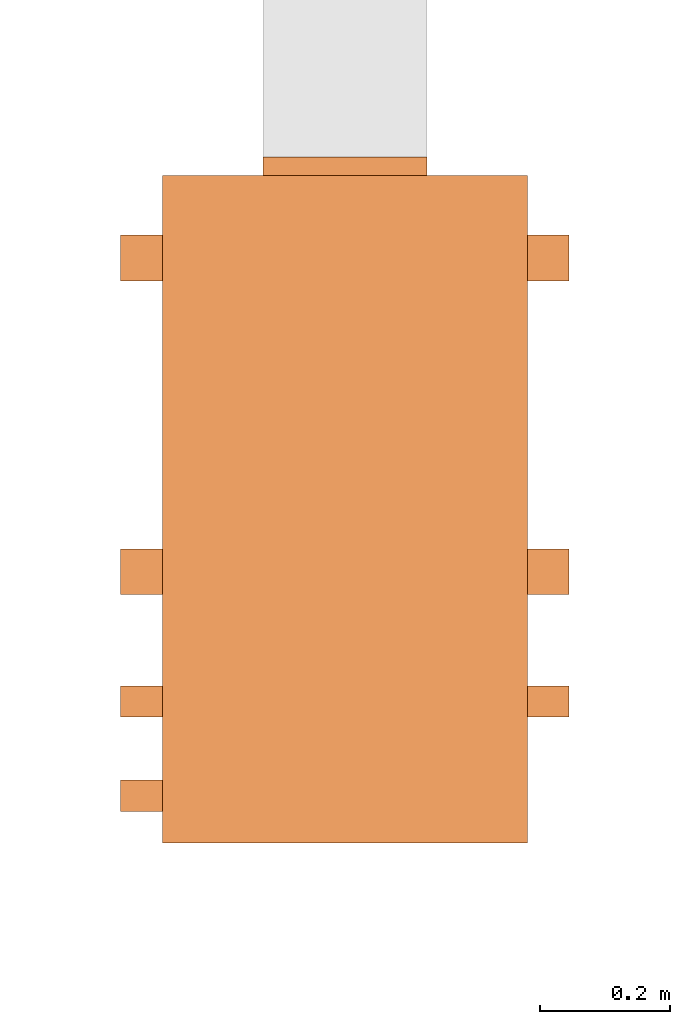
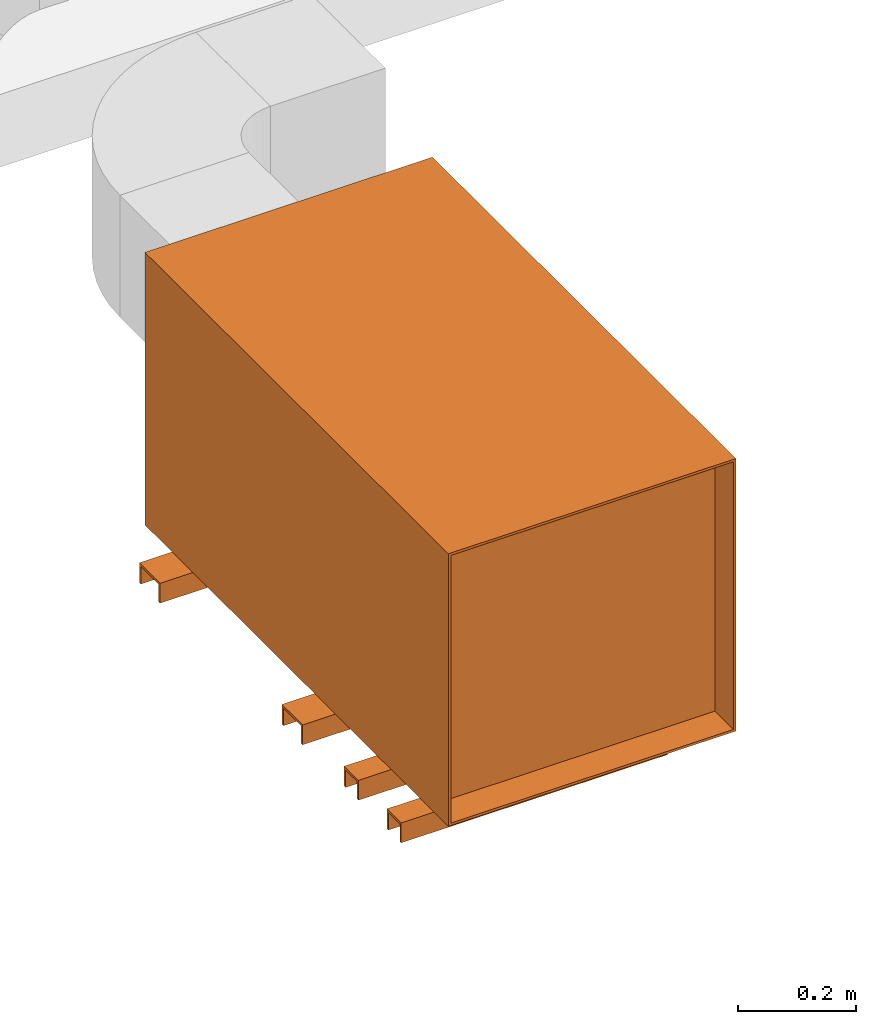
# One storey, part 8 of 10: 1 proxy.
"""IFC2X3 building model written with IfcOpenShell, lengths in millimetres."""

from ifc_helpers import new_model, entity, si_unit, converted_unit, derived_unit, direction, frame, frame_2d, origin, origin_2d_with_axis, place, context, subcontext, project, spatial, polyline, rectangle, hollow_circle, outline, extrude, source, transform, mapped, material, material_list, type_object, type_shapes, element, save


model = new_model("IFC2X3")

# Units and contexts
model_context = context("Model", 3, precision=0.01, world=origin(), true_north=direction((6.123233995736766e-17, 1.0)))
body_context = subcontext(model_context, "Body", "Model", "MODEL_VIEW")
ifc_project = project(units=[si_unit("LENGTHUNIT", "METRE", prefix="MILLI"), converted_unit("PLANEANGLEUNIT", "DEGREE", entity("IfcPlaneAngleMeasure", 0.017453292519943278), si_unit("PLANEANGLEUNIT", "RADIAN"), dimensions=[0, 0, 0, 0, 0, 0, 0]), si_unit("AREAUNIT", "SQUARE_METRE"), derived_unit("THERMALTRANSMITTANCEUNIT", [(si_unit("MASSUNIT", "GRAM", prefix="KILO"), 1), (si_unit("THERMODYNAMICTEMPERATUREUNIT", "KELVIN"), -1), (si_unit("TIMEUNIT", "SECOND"), -3)])], contexts=[model_context])

# Site, building, storey
site_placement = place(None, origin())
site = spatial("IfcSite", under=ifc_project, at=site_placement, Name="Default", CompositionType="ELEMENT")
building_placement = place(site_placement, origin())
building = spatial("IfcBuilding", under=site, at=building_placement, Name="Praça Pedro II, 1301 - Centro (Sul), Teresina - PI, 64001-100", CompositionType="ELEMENT")
storey_placement = place(building_placement, frame((0.0, 0.0, 9040.0)))
storey = spatial("IfcBuildingStorey", under=building, at=storey_placement, Name="LAJE TÉCNICA", CompositionType="ELEMENT", Elevation=9040.0)

# Proxy
ifc_material_1 = material(Name="Steel, Galvanized")
ifc_material_2 = material(Name="Fabric")
ifc_material_list = material_list([ifc_material_1, ifc_material_2])
building_element_proxy_type = type_object("IfcBuildingElementProxyType", Name="GLPF-200_1000-H-B-G4_M5:GLPF 280", PredefinedType="NOTDEFINED", material=ifc_material_list)
shared_shape = source(origin(), body_context, "Body", "SweptSolid", [
    extrude(rectangle(XDim=561.9999999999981, YDim=737.0000000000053, at=origin_2d_with_axis()), frame((0.0, 0.0, 41.0), z_axis=(0.0, 0.0, 1.0), x_axis=(-1.0, 0.0, 0.0)), (0.0, 0.0, 1.0), 4.999999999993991),
    extrude(outline(polyline([(-368.5000000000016, -281.0), (368.5000000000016, -281.0), (368.5000000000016, 281.0), (-368.5000000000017, 281.0), (-368.5000000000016, -281.0)]), holes=[polyline([(363.5000000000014, -276.0), (-363.5000000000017, -276.0), (-363.50000000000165, 276.0), (363.5000000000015, 276.0), (363.5000000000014, -276.0)])]), frame((0.0, 0.0, 46.0), z_axis=(0.0, 0.0, 1.0), x_axis=(0.0, 1.0, 0.0)), (0.0, 0.0, 1.0), 553.0000000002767),
    extrude(rectangle(XDim=562.0000000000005, YDim=737.0000000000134, at=origin_2d_with_axis()), frame((0.0, 0.0, 599.0), z_axis=(0.0, 0.0, 1.0), x_axis=(-1.0, 0.0, 0.0)), (0.0, 0.0, 1.0), 5.000000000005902),
    extrude(hollow_circle(Radius=190.00000000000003, WallThickness=50.00000000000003, at=frame_2d((-5.805957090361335e-15, -3.0455638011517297e-13), x_axis=(1.0, 0.0))), frame((0.0, 368.4999999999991, 302.0), z_axis=(0.0, 1.0, 0.0), x_axis=(-1.0, 0.0, 0.0)), (0.0, 0.0, 1.0), 5.000000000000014),
    extrude(outline(polyline([(-19.25000000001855, -35.1250000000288), (21.74999999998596, -35.1250000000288), (21.74999999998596, 35.12499999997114), (-19.250000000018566, 35.12499999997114), (-19.250000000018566, 30.125000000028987), (16.750000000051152, 30.125000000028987), (16.750000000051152, -30.12499999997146), (-19.25000000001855, -30.12499999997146), (-19.25000000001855, -35.1250000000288)])), frame((-345.0, 241.2499999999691, 19.250000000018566), z_axis=(1.0, 0.0, 0.0), x_axis=(0.0, 0.0, 1.0)), (0.0, 0.0, 1.0), 689.9999999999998),
    extrude(outline(polyline([(-19.250000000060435, -35.125000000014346), (21.75000000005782, -35.125000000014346), (21.75000000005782, 35.12500000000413), (-19.250000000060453, 35.12500000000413), (-19.250000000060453, 30.125000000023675), (16.750000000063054, 30.125000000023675), (16.750000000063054, -30.12500000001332), (-19.250000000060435, -30.12500000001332), (-19.250000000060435, -35.125000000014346)])), frame((-345.0, -241.2499999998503, 19.250000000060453), z_axis=(1.0, 0.0, 0.0), x_axis=(0.0, 0.0, 1.0)), (0.0, 0.0, 1.0), 689.9999999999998),
    extrude(outline(polyline([(-125.94999999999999, -125.94999999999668), (125.94999999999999, -125.94999999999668), (125.94999999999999, 125.94999999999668), (-125.94999999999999, 125.94999999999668), (-125.94999999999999, -125.94999999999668)]), holes=[polyline([(-120.95000000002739, 120.95000000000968), (120.94999999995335, 120.95000000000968), (120.94999999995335, -120.94999999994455), (-120.95000000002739, -120.94999999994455), (-120.95000000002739, 120.95000000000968)])]), frame((0.0, -396.4999999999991, 328.0), z_axis=(0.0, 1.0, 0.0), x_axis=(0.0, 0.0, -1.0)), (0.0, 0.0, 1.0), 27.999999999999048),
    extrude(outline(polyline([(-19.2500000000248, -24.166666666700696), (21.75000000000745, -24.166666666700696), (21.75000000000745, 24.166666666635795), (-19.25000000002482, 24.166666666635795), (-19.25000000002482, 19.166666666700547), (16.75000000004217, 19.166666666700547), (16.75000000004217, -19.16666666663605), (-19.2500000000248, -19.16666666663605), (-19.2500000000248, -24.166666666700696)])), frame((-345.0, 441.0, 19.25000000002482), z_axis=(1.0, 0.0, 0.0), x_axis=(0.0, 0.0, 1.0)), (0.0, 0.0, 1.0), 689.9999999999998),
    extrude(outline(polyline([(-281.0, -281.4999999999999), (281.0, -281.4999999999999), (281.0, 281.4999999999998), (-281.0, 281.4999999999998), (-281.0, -281.4999999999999)]), holes=[polyline([(-276.0, -276.50000000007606), (-276.0, 276.49999999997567), (276.0, 276.4999999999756), (276.0, -276.5000000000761), (-276.0, -276.50000000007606)])]), frame((0.0, 368.4999999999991, 322.5000000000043), z_axis=(0.0, 1.0, 0.0), x_axis=(1.0, 0.0, 0.0)), (0.0, 0.0, 1.0), 145.00000000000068),
    extrude(rectangle(XDim=19.99999999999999, YDim=551.9999999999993, at=frame_2d((3.375077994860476e-14, 0.0), x_axis=(1.0, 0.0))), frame((0.0, 441.0, 46.0), z_axis=(0.0, 0.0, 1.0), x_axis=(0.0, -1.0, 0.0)), (0.0, 0.0, 1.0), 553.0000000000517),
    extrude(outline(polyline([(-281.0, -281.4999999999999), (281.0, -281.4999999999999), (281.0, 281.4999999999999), (-281.0, 281.4999999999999), (-281.0, -281.4999999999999)]), holes=[polyline([(-276.0, -276.500000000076), (-276.0, 276.4999999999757), (276.0, 276.4999999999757), (276.0, -276.500000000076), (-276.0, -276.500000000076)])]), frame((0.0, 513.4999999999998, 322.5000000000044), z_axis=(0.0, 1.0, 0.0), x_axis=(1.0, 0.0, 0.0)), (0.0, 0.0, 1.0), 145.0000000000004),
    extrude(outline(polyline([(-19.250000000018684, -24.166666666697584), (21.750000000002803, -24.166666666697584), (21.750000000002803, 24.16666666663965), (-19.2500000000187, 24.16666666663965), (-19.2500000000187, 19.166666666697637), (16.7500000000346, 19.166666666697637), (16.7500000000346, -19.166666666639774), (-19.250000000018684, -19.166666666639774), (-19.250000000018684, -24.166666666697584)])), frame((-175.0, 586.0, 19.2500000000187), z_axis=(1.0, 0.0, 0.0), x_axis=(0.0, 0.0, 1.0)), (0.0, 0.0, 1.0), 520.0),
    extrude(rectangle(XDim=19.99999999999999, YDim=552.0000000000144, at=frame_2d((3.375077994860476e-14, 0.0), x_axis=(1.0, 0.0))), frame((0.0, 586.0, 46.0), z_axis=(0.0, 0.0, 1.0), x_axis=(0.0, -1.0, 0.0)), (0.0, 0.0, 1.0), 553.0000000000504),
])
type_shapes(building_element_proxy_type, [shared_shape])
proxy_placement = place(storey_placement, frame((35914.87333601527, -67526.21640775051, 1081.0), z_axis=(0.0, 0.0, 1.0), x_axis=(-1.0, 0.0, 0.0)))
element("IfcBuildingElementProxy", 1, at=proxy_placement, inside=storey, type_object=building_element_proxy_type, material=ifc_material_list, Name="GLPF-200_1000-H-B-G4_M5:GLPF 280", ObjectType="GLPF-200_1000-H-B-G4_M5:GLPF 280", context=body_context, shape_type="MappedRepresentation", body=[
    mapped(shared_shape, transform((0.0, 0.0, 0.0), scale=1.0)),
])

save(model, "model.ifc")
